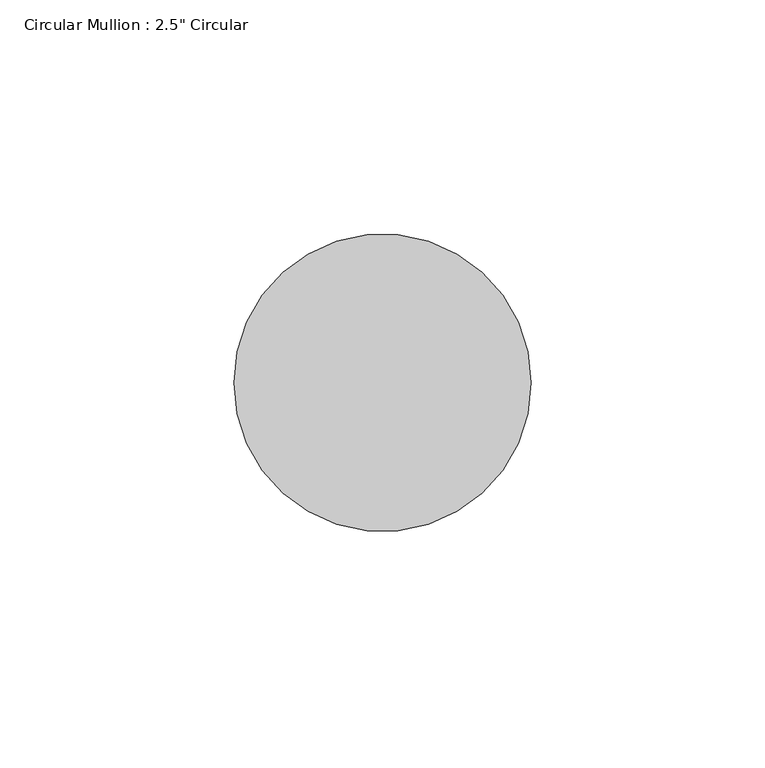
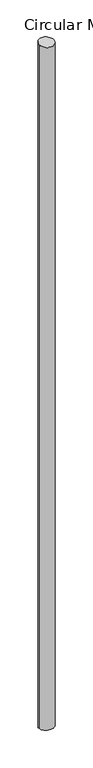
"""IFC4 building model written with IfcOpenShell, lengths in millimetres: member geometry."""

from ifc_helpers import new_model, si_unit, frame, origin, origin_with_axes, place, context, project, spatial, ellipse_curve, source, transform, mapped, element, save
from ifc_brep_helpers import plane_surface, cylinder_surface, advanced_brep


def member_647eb9a3(model_context):
    return source(origin(), model_context, "Body", "AdvancedBrep", [
        advanced_brep(
        [(-31.75, 0.0, 0.7059823), (31.75, 0.0, -0.7059823), (31.75, 0.0, -3070.482564), (-31.75, 0.0, -3072.0347642)],
        [
            (0, 1, ellipse_curve(frame((0.0, 0.0, 0.0), z_axis=(-0.022160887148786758, 0.07888736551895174, -0.9966371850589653), x_axis=(-0.26953996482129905, 0.9594966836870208, 0.08194096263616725)), 31.8571296, 31.75)),
            (1, 2),
            (2, 3, ellipse_curve(frame((0.0, 0.0, -3071.2586641), z_axis=(-0.02433858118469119, 0.08956707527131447, 0.9956833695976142), x_axis=(0.26109482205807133, -0.9608407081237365, 0.09281501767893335)), 31.8876472, 31.75)),
            (3, 0),
            (1, 0, ellipse_curve(frame((0.0, 0.0, 0.0), z_axis=(-0.022160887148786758, 0.07888736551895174, -0.9966371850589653), x_axis=(-0.26953996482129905, 0.9594966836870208, 0.08194096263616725)), 31.8571296, 31.75)),
            (3, 2, ellipse_curve(frame((0.0, 0.0, -3071.2586641), z_axis=(-0.02433858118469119, 0.08956707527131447, 0.9956833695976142), x_axis=(0.26109482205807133, -0.9608407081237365, 0.09281501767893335)), 31.8876472, 31.75)),
        ],
        [
            cylinder_surface(origin_with_axes(), 31.75),
            plane_surface(frame((293.4413782, 82.4329882, 0.0), z_axis=(0.022160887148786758, -0.07888736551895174, 0.9966371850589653), x_axis=(0.2695399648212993, -0.9594966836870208, -0.08194096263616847))),
            plane_surface(frame((294.1339152, 79.9267159, -3071.2586641), z_axis=(0.02433858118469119, -0.08956707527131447, -0.9956833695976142), x_axis=(0.2610948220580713, -0.9608407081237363, 0.09281501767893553))),
        ],
        [
            (0, [[1, 2, 3, 4]]),
            (0, [[5, -4, 6, -2]]),
            (1, [[-1, -5]]),
            (2, [[-6, -3]]),
        ],
    ),
    ])


if __name__ == "__main__":
    model = new_model("IFC4")
    model_context = context("Model", 3, world=origin())
    ifc_project = project(units=[si_unit("LENGTHUNIT", "METRE", prefix="MILLI")], contexts=[model_context])
    site = spatial("IfcSite", under=ifc_project)
    building = spatial("IfcBuilding", under=site)
    placement = place(None, origin())
    member_shape = member_647eb9a3(model_context)
    element("IfcMember", 1, ObjectType="Circular Mullion : 2.5\" Circular", at=placement, inside=building, context=model_context, shape_type="MappedRepresentation", body=[
        mapped(member_shape, transform((0.0, 0.0, 0.0), x_axis=(1.0, 0.0, 0.0), y_axis=(0.0, 1.0, 0.0), z_axis=(0.0, 0.0, 1.0))),
    ])
    save(model, "model.ifc")
